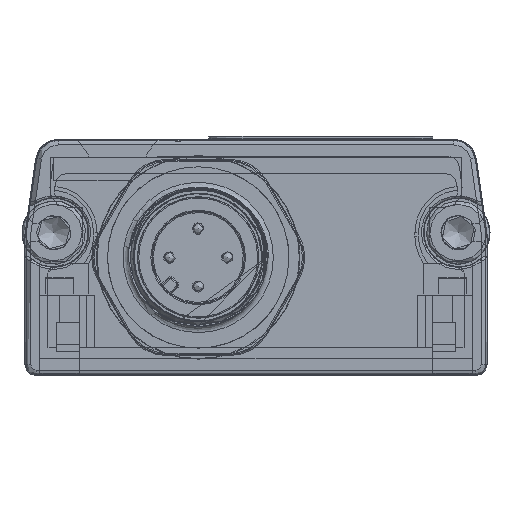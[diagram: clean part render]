
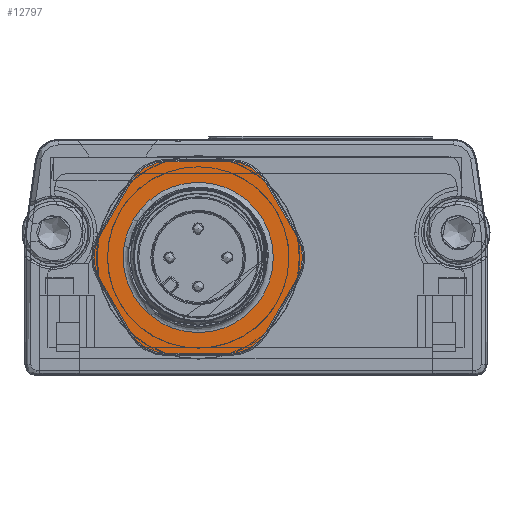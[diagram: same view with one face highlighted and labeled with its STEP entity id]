
A CAD part, front view. The second image highlights one B-rep face of the part: STEP entity #12797.
In plain terms, the highlighted planar face has unit normal (0, -1, 0).
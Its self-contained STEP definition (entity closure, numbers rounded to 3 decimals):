
#165=FACE_BOUND('',#2191,.T.);
#536=CIRCLE('',#13611,6.5);
#537=CIRCLE('',#13612,6.5);
#573=CIRCLE('',#13671,3.6);
#578=CIRCLE('',#13678,3.6);
#581=CIRCLE('',#13683,3.6);
#584=CIRCLE('',#13688,3.6);
#588=CIRCLE('',#13694,3.6);
#592=CIRCLE('',#13700,3.6);
#970=PLANE('',#13707);
#1485=FACE_OUTER_BOUND('',#2190,.T.);
#2190=EDGE_LOOP('',(#9670,#9671,#9672,#9673,#9674,#9675,#9676,#9677,#9678,
#9679,#9680,#9681));
#2191=EDGE_LOOP('',(#9682,#9683));
#3255=LINE('',#27142,#4280);
#3256=LINE('',#27150,#4281);
#3257=LINE('',#27158,#4282);
#3258=LINE('',#27166,#4283);
#3260=LINE('',#27178,#4285);
#3261=LINE('',#27186,#4286);
#4280=VECTOR('',#15791,10.);
#4281=VECTOR('',#15802,10.);
#4282=VECTOR('',#15813,10.);
#4283=VECTOR('',#15824,10.);
#4285=VECTOR('',#15838,10.);
#4286=VECTOR('',#15849,10.);
#5471=VERTEX_POINT('',#25486);
#5472=VERTEX_POINT('',#25488);
#5520=VERTEX_POINT('',#27131);
#5521=VERTEX_POINT('',#27133);
#5523=VERTEX_POINT('',#27139);
#5524=VERTEX_POINT('',#27144);
#5525=VERTEX_POINT('',#27148);
#5526=VERTEX_POINT('',#27152);
#5527=VERTEX_POINT('',#27156);
#5528=VERTEX_POINT('',#27160);
#5529=VERTEX_POINT('',#27164);
#5530=VERTEX_POINT('',#27168);
#5532=VERTEX_POINT('',#27174);
#5534=VERTEX_POINT('',#27180);
#6917=EDGE_CURVE('',#5471,#5472,#536,.T.);
#6918=EDGE_CURVE('',#5472,#5471,#537,.T.);
#6999=EDGE_CURVE('',#5520,#5521,#573,.T.);
#7004=EDGE_CURVE('',#5521,#5523,#3255,.T.);
#7006=EDGE_CURVE('',#5523,#5524,#578,.T.);
#7008=EDGE_CURVE('',#5524,#5525,#3256,.T.);
#7010=EDGE_CURVE('',#5525,#5526,#581,.T.);
#7012=EDGE_CURVE('',#5526,#5527,#3257,.T.);
#7014=EDGE_CURVE('',#5527,#5528,#584,.T.);
#7016=EDGE_CURVE('',#5528,#5529,#3258,.T.);
#7019=EDGE_CURVE('',#5529,#5530,#588,.T.);
#7022=EDGE_CURVE('',#5530,#5532,#3260,.T.);
#7025=EDGE_CURVE('',#5532,#5534,#592,.T.);
#7026=EDGE_CURVE('',#5534,#5520,#3261,.T.);
#9670=ORIENTED_EDGE('',*,*,#6999,.F.);
#9671=ORIENTED_EDGE('',*,*,#7026,.F.);
#9672=ORIENTED_EDGE('',*,*,#7025,.F.);
#9673=ORIENTED_EDGE('',*,*,#7022,.F.);
#9674=ORIENTED_EDGE('',*,*,#7019,.F.);
#9675=ORIENTED_EDGE('',*,*,#7016,.F.);
#9676=ORIENTED_EDGE('',*,*,#7014,.F.);
#9677=ORIENTED_EDGE('',*,*,#7012,.F.);
#9678=ORIENTED_EDGE('',*,*,#7010,.F.);
#9679=ORIENTED_EDGE('',*,*,#7008,.F.);
#9680=ORIENTED_EDGE('',*,*,#7006,.F.);
#9681=ORIENTED_EDGE('',*,*,#7004,.F.);
#9682=ORIENTED_EDGE('',*,*,#6918,.F.);
#9683=ORIENTED_EDGE('',*,*,#6917,.F.);
#12797=ADVANCED_FACE('',(#1485,#165),#970,.T.);
#13611=AXIS2_PLACEMENT_3D('',#25489,#15628,#15629);
#13612=AXIS2_PLACEMENT_3D('',#25490,#15630,#15631);
#13671=AXIS2_PLACEMENT_3D('',#27134,#15780,#15781);
#13678=AXIS2_PLACEMENT_3D('',#27146,#15796,#15797);
#13683=AXIS2_PLACEMENT_3D('',#27154,#15807,#15808);
#13688=AXIS2_PLACEMENT_3D('',#27162,#15818,#15819);
#13694=AXIS2_PLACEMENT_3D('',#27172,#15831,#15832);
#13700=AXIS2_PLACEMENT_3D('',#27184,#15845,#15846);
#13707=AXIS2_PLACEMENT_3D('',#27198,#15866,#15867);
#15628=DIRECTION('center_axis',(0.,-1.,0.));
#15629=DIRECTION('ref_axis',(0.,0.,
1.));
#15630=DIRECTION('center_axis',(0.,-1.,0.));
#15631=DIRECTION('ref_axis',(0.,0.,
1.));
#15780=DIRECTION('center_axis',(0.,1.,0.));
#15781=DIRECTION('ref_axis',(-0.5,0.,-0.866));
#15791=DIRECTION('',(-0.5,0.,0.866));
#15796=DIRECTION('center_axis',(0.,1.,0.));
#15797=DIRECTION('ref_axis',(-1.,0.,0.));
#15802=DIRECTION('',(0.5,0.,0.866));
#15807=DIRECTION('center_axis',(0.,1.,0.));
#15808=DIRECTION('ref_axis',(-0.5,0.,0.866));
#15813=DIRECTION('',(1.,0.,0.));
#15818=DIRECTION('center_axis',(0.,1.,0.));
#15819=DIRECTION('ref_axis',(0.5,0.,0.866));
#15824=DIRECTION('',(0.5,0.,-0.866));
#15831=DIRECTION('center_axis',(0.,1.,0.));
#15832=DIRECTION('ref_axis',(1.,0.,0.));
#15838=DIRECTION('',(-0.5,0.,-0.866));
#15845=DIRECTION('center_axis',(0.,1.,0.));
#15846=DIRECTION('ref_axis',(0.5,0.,-0.866));
#15849=DIRECTION('',(-1.,0.,0.));
#15866=DIRECTION('center_axis',(0.,-1.,0.));
#15867=DIRECTION('ref_axis',(-1.,0.,0.));
#25486=CARTESIAN_POINT('',(-50.215,-12.9,18.629));
#25488=CARTESIAN_POINT('',(-43.715,-12.9,12.129));
#25489=CARTESIAN_POINT('Origin',(-43.715,-12.9,18.629));
#25490=CARTESIAN_POINT('Origin',(-43.715,-12.9,18.629));
#27131=CARTESIAN_POINT('',(-46.428,-12.9,10.329));
#27133=CARTESIAN_POINT('',(-49.546,-12.9,12.129));
#27134=CARTESIAN_POINT('Origin',(-46.428,-12.9,13.929));
#27139=CARTESIAN_POINT('',(-52.26,-12.9,16.829));
#27142=CARTESIAN_POINT('',(-52.13,-12.9,16.604));
#27144=CARTESIAN_POINT('',(-52.26,-12.9,20.429));
#27146=CARTESIAN_POINT('Origin',(-49.142,-12.9,18.629));
#27148=CARTESIAN_POINT('',(-49.546,-12.9,25.129));
#27150=CARTESIAN_POINT('',(-49.676,-12.9,24.904));
#27152=CARTESIAN_POINT('',(-46.428,-12.9,26.929));
#27154=CARTESIAN_POINT('Origin',(-46.428,-12.9,23.329));
#27156=CARTESIAN_POINT('',(-41.001,-12.9,26.929));
#27158=CARTESIAN_POINT('',(-41.261,-12.9,26.929));
#27160=CARTESIAN_POINT('',(-37.884,-12.9,25.129));
#27162=CARTESIAN_POINT('Origin',(-41.001,-12.9,23.329));
#27164=CARTESIAN_POINT('',(-35.17,-12.9,20.429));
#27166=CARTESIAN_POINT('',(-35.3,-12.9,20.654));
#27168=CARTESIAN_POINT('',(-35.17,-12.9,16.829));
#27172=CARTESIAN_POINT('Origin',(-38.288,-12.9,18.629));
#27174=CARTESIAN_POINT('',(-37.884,-12.9,12.129));
#27178=CARTESIAN_POINT('',(-37.754,-12.9,12.354));
#27180=CARTESIAN_POINT('',(-41.001,-12.9,10.329));
#27184=CARTESIAN_POINT('Origin',(-41.001,-12.9,13.929));
#27186=CARTESIAN_POINT('',(-46.169,-12.9,10.329));
#27198=CARTESIAN_POINT('Origin',(-43.715,-12.9,18.629));
